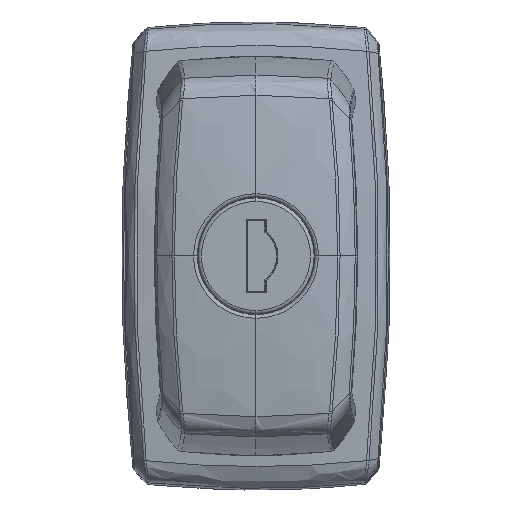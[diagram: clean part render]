
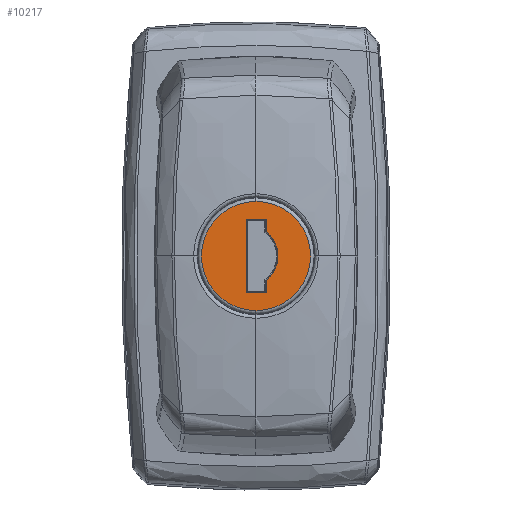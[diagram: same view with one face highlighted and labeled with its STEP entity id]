
A CAD part, front view. The second image highlights one B-rep face of the part: STEP entity #10217.
In plain terms, the highlighted planar face has unit normal (0, -1, 0) as drawn and (0, 0, -1) by its records, which use the part's own axes.
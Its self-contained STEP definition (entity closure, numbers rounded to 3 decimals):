
#306 = ORIENTED_EDGE ( 'NONE', *, *, #43771, .T. ) ;
#1260 = CARTESIAN_POINT ( 'NONE',  ( 5.35, 1.2, 0. ) ) ;
#4173 = CARTESIAN_POINT ( 'NONE',  ( 5.15, 1.4, 0. ) ) ;
#4328 = LINE ( 'NONE', #54350, #51556 ) ;
#5259 = LINE ( 'NONE', #24608, #18381 ) ;
#5421 = EDGE_CURVE ( 'NONE', #38078, #55467, #59372, .T. ) ;
#5771 = FACE_OUTER_BOUND ( 'NONE', #13205, .T. ) ;
#7031 = LINE ( 'NONE', #27005, #54936 ) ;
#7056 = CIRCLE ( 'NONE', #21230, 4.57 ) ;
#8198 = ORIENTED_EDGE ( 'NONE', *, *, #59634, .T. ) ;
#8420 = VERTEX_POINT ( 'NONE', #49434 ) ;
#8808 = AXIS2_PLACEMENT_3D ( 'NONE', #44627, #39221, #35102 ) ;
#10217 = ADVANCED_FACE ( 'NONE', ( #5771, #43551 ), #47968, .F. ) ;
#10758 = AXIS2_PLACEMENT_3D ( 'NONE', #31749, #17747, #36181 ) ;
#12374 = DIRECTION ( 'NONE',  ( 0., 1., 0. ) ) ;
#13205 = EDGE_LOOP ( 'NONE', ( #61520, #36940 ) ) ;
#14445 = DIRECTION ( 'NONE',  ( 1., 0., 0. ) ) ;
#15806 = CARTESIAN_POINT ( 'NONE',  ( -7.925, 0., 0. ) ) ;
#15956 = VECTOR ( 'NONE', #12374, 1000. ) ;
#16336 = VERTEX_POINT ( 'NONE', #1260 ) ;
#17423 = EDGE_CURVE ( 'NONE', #26750, #16336, #24938, .T. ) ;
#17747 = DIRECTION ( 'NONE',  ( 0., 0., -1. ) ) ;
#17799 = VERTEX_POINT ( 'NONE', #15806 ) ;
#18198 = VERTEX_POINT ( 'NONE', #31273 ) ;
#18381 = VECTOR ( 'NONE', #43973, 1000. ) ;
#19050 = EDGE_LOOP ( 'NONE', ( #23308, #306, #30953, #37327, #8198, #28625, #61606, #40371 ) ) ;
#21230 = AXIS2_PLACEMENT_3D ( 'NONE', #46432, #22296, #27367 ) ;
#21888 = EDGE_CURVE ( 'NONE', #26750, #8420, #4328, .T. ) ;
#22296 = DIRECTION ( 'NONE',  ( 0., 0., 1. ) ) ;
#23308 = ORIENTED_EDGE ( 'NONE', *, *, #5421, .F. ) ;
#23803 = CARTESIAN_POINT ( 'NONE',  ( 0., 0., 0. ) ) ;
#23866 = CARTESIAN_POINT ( 'NONE',  ( 0., 0., 0. ) ) ;
#24502 = DIRECTION ( 'NONE',  ( 0., 0., 1. ) ) ;
#24608 = CARTESIAN_POINT ( 'NONE',  ( -5.35, 0., 0. ) ) ;
#24938 = CIRCLE ( 'NONE', #10758, 0.2 ) ;
#25008 = CARTESIAN_POINT ( 'NONE',  ( 7.925, 0., 0. ) ) ;
#25142 = VERTEX_POINT ( 'NONE', #33117 ) ;
#25333 = AXIS2_PLACEMENT_3D ( 'NONE', #23866, #24502, #43237 ) ;
#25515 = EDGE_CURVE ( 'NONE', #17799, #32825, #51685, .T. ) ;
#26665 = CARTESIAN_POINT ( 'NONE',  ( 5.35, 0., 0. ) ) ;
#26750 = VERTEX_POINT ( 'NONE', #4173 ) ;
#27005 = CARTESIAN_POINT ( 'NONE',  ( 0., -1.5, 0. ) ) ;
#27223 = CARTESIAN_POINT ( 'NONE',  ( 5.15, -1.3, 0. ) ) ;
#27367 = DIRECTION ( 'NONE',  ( 1., 0., 0. ) ) ;
#28625 = ORIENTED_EDGE ( 'NONE', *, *, #53031, .T. ) ;
#29530 = DIRECTION ( 'NONE',  ( 0., 0., -1. ) ) ;
#30953 = ORIENTED_EDGE ( 'NONE', *, *, #17423, .F. ) ;
#31085 = EDGE_CURVE ( 'NONE', #18198, #55467, #7031, .T. ) ;
#31273 = CARTESIAN_POINT ( 'NONE',  ( 3.548, -1.5, 0. ) ) ;
#31749 = CARTESIAN_POINT ( 'NONE',  ( 5.15, 1.2, 0. ) ) ;
#32045 = AXIS2_PLACEMENT_3D ( 'NONE', #27223, #56402, #56724 ) ;
#32825 = VERTEX_POINT ( 'NONE', #25008 ) ;
#32989 = CARTESIAN_POINT ( 'NONE',  ( 5.15, -1.5, 0. ) ) ;
#33117 = CARTESIAN_POINT ( 'NONE',  ( -3.548, -1.5, 0. ) ) ;
#35102 = DIRECTION ( 'NONE',  ( 1., 0., 0. ) ) ;
#36181 = DIRECTION ( 'NONE',  ( 1., 0., 0. ) ) ;
#36940 = ORIENTED_EDGE ( 'NONE', *, *, #25515, .T. ) ;
#37241 = VECTOR ( 'NONE', #14445, 1000. ) ;
#37327 = ORIENTED_EDGE ( 'NONE', *, *, #21888, .T. ) ;
#38078 = VERTEX_POINT ( 'NONE', #41341 ) ;
#39221 = DIRECTION ( 'NONE',  ( 0., 0., -1. ) ) ;
#40371 = ORIENTED_EDGE ( 'NONE', *, *, #31085, .T. ) ;
#41341 = CARTESIAN_POINT ( 'NONE',  ( 5.35, -1.3, 0. ) ) ;
#43237 = DIRECTION ( 'NONE',  ( 1., 0., 0. ) ) ;
#43551 = FACE_BOUND ( 'NONE', #19050, .T. ) ;
#43771 = EDGE_CURVE ( 'NONE', #38078, #16336, #55159, .T. ) ;
#43973 = DIRECTION ( 'NONE',  ( 0., -1., 0. ) ) ;
#44228 = DIRECTION ( 'NONE',  ( -1., 0., 0. ) ) ;
#44627 = CARTESIAN_POINT ( 'NONE',  ( 0., 0., 0. ) ) ;
#44871 = CARTESIAN_POINT ( 'NONE',  ( -5.35, -1.5, 0. ) ) ;
#45327 = CIRCLE ( 'NONE', #8808, 7.925 ) ;
#46432 = CARTESIAN_POINT ( 'NONE',  ( 0., 1.38, 0. ) ) ;
#47377 = EDGE_CURVE ( 'NONE', #25142, #18198, #7056, .T. ) ;
#47968 = PLANE ( 'NONE',  #25333 ) ;
#48372 = LINE ( 'NONE', #57913, #37241 ) ;
#49434 = CARTESIAN_POINT ( 'NONE',  ( -5.35, 1.4, 0. ) ) ;
#50276 = EDGE_CURVE ( 'NONE', #32825, #17799, #45327, .T. ) ;
#51556 = VECTOR ( 'NONE', #44228, 1000. ) ;
#51685 = CIRCLE ( 'NONE', #59812, 7.925 ) ;
#53031 = EDGE_CURVE ( 'NONE', #55402, #25142, #48372, .T. ) ;
#54350 = CARTESIAN_POINT ( 'NONE',  ( 0., 1.4, 0. ) ) ;
#54936 = VECTOR ( 'NONE', #60968, 1000. ) ;
#55159 = LINE ( 'NONE', #26665, #15956 ) ;
#55402 = VERTEX_POINT ( 'NONE', #44871 ) ;
#55467 = VERTEX_POINT ( 'NONE', #32989 ) ;
#56402 = DIRECTION ( 'NONE',  ( 0., 0., -1. ) ) ;
#56724 = DIRECTION ( 'NONE',  ( 1., 0., 0. ) ) ;
#57913 = CARTESIAN_POINT ( 'NONE',  ( 0., -1.5, 0. ) ) ;
#58695 = DIRECTION ( 'NONE',  ( 1., 0., 0. ) ) ;
#59372 = CIRCLE ( 'NONE', #32045, 0.2 ) ;
#59634 = EDGE_CURVE ( 'NONE', #8420, #55402, #5259, .T. ) ;
#59812 = AXIS2_PLACEMENT_3D ( 'NONE', #23803, #29530, #58695 ) ;
#60968 = DIRECTION ( 'NONE',  ( 1., 0., 0. ) ) ;
#61520 = ORIENTED_EDGE ( 'NONE', *, *, #50276, .T. ) ;
#61606 = ORIENTED_EDGE ( 'NONE', *, *, #47377, .T. ) ;
